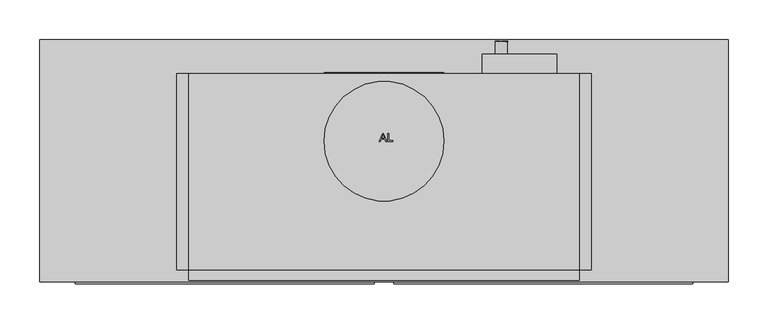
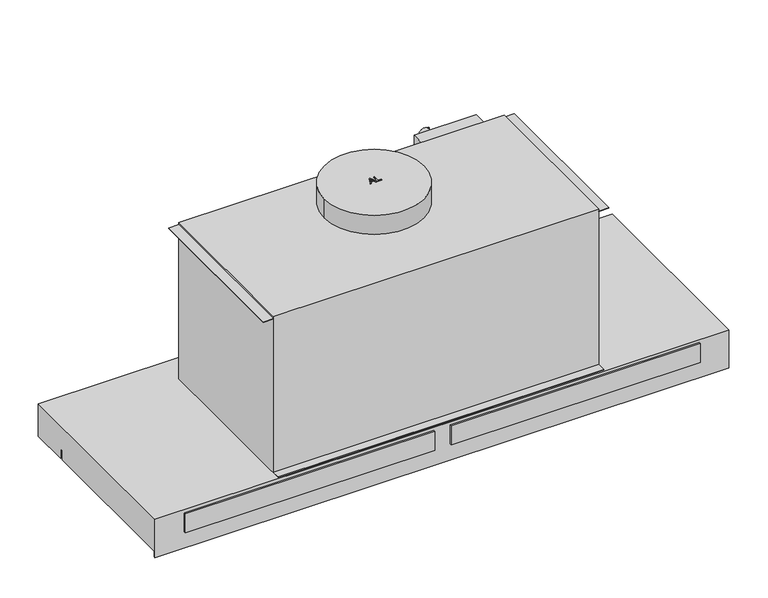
"""IFC4 building model written with IfcOpenShell, lengths in millimetres: proxy geometry, 11878590_USA_DAS8930_EDST : 28S8930S_USA_11878590_DAS8930_EDST."""

from ifc_helpers import new_model, si_unit, point, frame, frame_2d, origin, origin_with_axes, place, context, project, spatial, polyline, circle_curve, trimmed, segment, composite_curve, outline, extrude, faceted_brep, source, transform, mapped, element, save
from ifc_brep_helpers import plane_surface, revolved_surface, advanced_brep


def specialty_equipment_5ec509a7(model_context):
    return source(origin(), model_context, "Body", "SolidModel", [
        extrude(outline(polyline([(119.0, -21.25), (119.0, -33.75), (-119.0, -33.75), (-119.0, -21.25), (119.0, -21.25)])), frame((0.0, 0.0, -52.0), z_axis=(0.0, 0.0, 1.0), x_axis=(1.0, 0.0, 0.0)), (0.0, 0.0, 1.0), 1.0),
        extrude(outline(polyline([(259.2, -42.3), (259.2, -288.0), (244.2, -288.0), (244.2, -42.3), (259.2, -42.3)])), frame((0.0, 0.0, 244.0), z_axis=(0.0, 0.0, 1.0), x_axis=(1.0, 0.0, 0.0)), (0.0, 0.0, 1.0), 1.0),
        extrude(outline(polyline([(244.2, -288.0), (244.2, -301.010493), (-244.2, -301.010493), (-244.2, -288.0), (244.2, -288.0)])), origin_with_axes(), (0.0, 0.0, 1.0), 1.0),
        extrude(outline(polyline([(-5.7216201, -127.4839826), (-1.7117063, -117.4383516), (-0.642396, -117.4383516), (3.3675177, -127.4839826), (2.04069, -127.4839826), (0.8904456, -124.3447229), (-3.2470005, -124.3447229), (-4.3947924, -127.4839826), (-5.7216201, -127.4839826)]), holes=[polyline([(-2.7859218, -123.089019), (0.4318194, -123.089019), (-0.4731703, -120.6193046), (-1.1770512, -118.6940555), (-1.8024506, -120.4034805), (-2.7859218, -123.089019)])]), frame((0.0, 0.0, 278.0), z_axis=(0.0, 0.0, 1.0), x_axis=(1.0, 0.0, 0.0)), (0.0, 0.0, 1.0), 1.0),
        extrude(outline(polyline([(4.7090607, -127.4839826), (4.7090607, -117.4383516), (5.9647646, -117.4383516), (5.9647646, -126.2282787), (10.9875801, -126.2282787), (10.9875801, -127.4839826), (4.7090607, -127.4839826)])), frame((0.0, 0.0, 278.0), z_axis=(0.0, 0.0, 1.0), x_axis=(1.0, 0.0, 0.0)), (0.0, 0.0, 1.0), 1.0),
        extrude(outline(polyline([(-259.2, -42.3), (-244.2, -42.3), (-244.2, -288.0), (-259.2, -288.0), (-259.2, -42.3)])), frame((0.0, 0.0, 244.0), z_axis=(0.0, 0.0, 1.0), x_axis=(1.0, 0.0, 0.0)), (0.0, 0.0, 1.0), 1.0),
        extrude(outline(composite_curve([segment(trimmed(circle_curve(frame_2d((96.0, 0.0)), 75.0), [point((96.0, -75.0))], [point((96.0, 75.0))], False, "CARTESIAN"), True, "CONTINUOUS"), segment(trimmed(circle_curve(frame_2d((96.0, 0.0)), 75.0), [point((96.0, 75.0))], [point((96.0, -75.0))], False, "CARTESIAN"), True, "CONTINUOUS")], self_intersect=False)), frame((0.0, -42.3, 0.0), z_axis=(0.0, 1.0, 0.0), x_axis=(0.0, 0.0, 1.0)), (0.0, 0.0, 1.0), 1.2154264),
        extrude(outline(composite_curve([segment(trimmed(circle_curve(frame_2d((0.0, -127.0)), 75.0), [point((-75.0, -127.0))], [point((75.0, -127.0))], False, "CARTESIAN"), True, "CONTINUOUS"), segment(trimmed(circle_curve(frame_2d((0.0, -127.0)), 75.0), [point((75.0, -127.0))], [point((-75.0, -127.0))], False, "CARTESIAN"), True, "CONTINUOUS")], self_intersect=False)), frame((0.0, 0.0, 248.0), z_axis=(0.0, 0.0, 1.0), x_axis=(1.0, 0.0, 0.0)), (0.0, 0.0, 1.0), 30.0),
        extrude(outline(polyline([(244.2, -42.3), (244.2, -288.0), (-244.2, -288.0), (-244.2, -42.3), (244.2, -42.3)])), origin_with_axes(), (0.0, 0.0, 1.0), 248.0),
        advanced_brep(
        [(139.1711584, -34.3, 112.0), (143.2288416, -34.3, 112.0), (138.7132307, -42.3, 112.0), (143.6867693, -42.3, 112.0)],
        [
            (0, 1, circle_curve(frame((141.2, -34.3, 112.0), z_axis=(0.0, 1.0, 0.0), x_axis=(-1.0, 0.0, 0.0)), 2.0288416)),
            (1, 0, circle_curve(frame((141.2, -34.3, 112.0), z_axis=(0.0, 1.0, 0.0), x_axis=(1.0, 0.0, 0.0)), 2.0288416)),
            (2, 3, circle_curve(frame((141.2, -42.3, 112.0), z_axis=(0.0, -1.0, 0.0), x_axis=(1.0, 0.0, 0.0)), 2.4867693)),
            (3, 2, circle_curve(frame((141.2, -42.3, 112.0), z_axis=(0.0, -1.0, 0.0), x_axis=(-1.0, 0.0, 0.0)), 2.4867693)),
            (2, 0),
            (1, 3),
        ],
        [
            plane_surface(frame((141.2, -34.3, 112.0), z_axis=(0.0, 1.0, 0.0), x_axis=(0.0, 0.0, -1.0))),
            plane_surface(frame((141.2, -42.3, 112.0), z_axis=(0.0, -1.0, 0.0), x_axis=(0.0, 0.0, -1.0))),
            revolved_surface(polyline([(143.22884160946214, -34.3, 112.0), (143.6867693, -42.3, 112.0)]), (141.2, 1.1438773, 112.0), (0.0, -1.0, 0.0)),
            revolved_surface(polyline([(139.17115839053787, -34.3, 112.0), (138.7132307, -42.3, 112.0)]), (141.2, 1.1438773, 112.0), (0.0, -1.0, 0.0)),
        ],
        [
            (0, [[1, 2]]),
            (1, [[3, 4]]),
            (2, [[-3, 5, -2, 6]]),
            (3, [[-4, -6, -1, -5]]),
        ],
    ),
        extrude(outline(polyline([(-12.3800203, -305.5611099), (-386.3800203, -305.5611099), (-386.3800203, -303.0), (-12.3800203, -303.0), (-12.3800203, -305.5611099)])), frame((0.0, 0.0, -35.0), z_axis=(0.0, 0.0, 1.0), x_axis=(1.0, 0.0, 0.0)), (0.0, 0.0, 1.0), 30.0),
        extrude(outline(polyline([(386.3800203, -305.5611099), (12.3800203, -305.5611099), (12.3800203, -303.0), (386.3800203, -303.0), (386.3800203, -305.5611099)])), frame((0.0, 0.0, -35.0), z_axis=(0.0, 0.0, 1.0), x_axis=(1.0, 0.0, 0.0)), (0.0, 0.0, 1.0), 30.0),
        extrude(outline(polyline([(140.0671036, -279.4201694), (140.0671036, -299.4201694), (-140.0671036, -299.4201694), (-140.0671036, -279.4201694), (140.0671036, -279.4201694)])), frame((0.0, 0.0, -62.0), z_axis=(0.0, 0.0, 1.0), x_axis=(1.0, 0.0, 0.0)), (0.0, 0.0, 1.0), 10.0),
        extrude(outline(polyline([(225.0642317, 154.9241859), (235.1098627, 154.9241859), (235.1098627, 147.7038886), (233.8541589, 147.7038886), (233.8541589, 153.668482), (230.8718622, 153.668482), (230.8718622, 148.0178146), (229.6161583, 148.0178146), (229.6161583, 153.668482), (226.3199356, 153.668482), (226.3199356, 147.5469256), (225.0642317, 147.5469256), (225.0642317, 154.9241859)])), frame((0.0, -2.3, 0.0), z_axis=(0.0, 1.0, 0.0), x_axis=(0.0, 0.0, 1.0)), (0.0, 0.0, 1.0), 1.0),
        extrude(outline(polyline([(225.0642317, 145.6633698), (235.1098627, 145.6633698), (235.1098627, 144.407666), (226.3199356, 144.407666), (226.3199356, 139.3848504), (225.0642317, 139.3848504), (225.0642317, 145.6633698)])), frame((0.0, -2.3, 0.0), z_axis=(0.0, 1.0, 0.0), x_axis=(0.0, 0.0, 1.0)), (0.0, 0.0, 1.0), 1.0),
        extrude(outline(composite_curve([segment(trimmed(circle_curve(frame_2d((230.0, 147.0)), 7.5), [point((230.0, 139.5))], [point((230.0, 154.5))], False, "CARTESIAN"), True, "CONTINUOUS"), segment(trimmed(circle_curve(frame_2d((230.0, 147.0)), 7.5), [point((230.0, 154.5))], [point((230.0, 139.5))], False, "CARTESIAN"), True, "CONTINUOUS")], self_intersect=False)), frame((0.0, -18.1362154, 0.0), z_axis=(0.0, 1.0, 0.0), x_axis=(0.0, 0.0, 1.0)), (0.0, 0.0, 1.0), 15.8362154),
        extrude(outline(polyline([(216.0, -42.3), (123.0, -42.3), (123.0, -18.1362154), (216.0, -18.1362154), (216.0, -42.3)])), frame((0.0, 0.0, 204.0), z_axis=(0.0, 0.0, 1.0), x_axis=(1.0, 0.0, 0.0)), (0.0, 0.0, 1.0), 40.0),
        faceted_brep([(430.5, 0.0, 0.0), (-430.5, 0.0, 0.0), (-430.5, -303.0, 0.0), (430.5, -303.0, 0.0), (-430.5, 0.0, -52.0), (430.5, 0.0, -52.0), (430.5, -57.4839826, -52.0), (-430.5, -57.4839826, -52.0), (-125.0, -41.0, -52.0), (125.0, -41.0, -52.0), (125.0, -14.0, -52.0), (-125.0, -14.0, -52.0), (-430.5, -61.3884394, -52.0), (430.5, -61.3884394, -52.0), (430.5, -301.010493, -52.0), (-430.5, -301.010493, -52.0), (56.7717187, -231.6352835, -52.0), (56.7717187, -176.6352835, -52.0), (-56.7717187, -176.6352835, -52.0), (-56.7717187, -231.6352835, -52.0), (-430.5, -57.4839826, -37.0), (-430.5, -61.3884394, -37.0), (-430.5, -301.010493, -60.7521078), (-430.5, -303.0, -60.7521078), (430.5, -303.0, -60.7521078), (430.5, -301.010493, -60.7521078), (430.5, -61.3884394, -37.0), (430.5, -57.4839826, -37.0), (56.7717187, -191.6352835, -37.0), (56.7717187, -246.6352835, -37.0), (-56.7717187, -191.6352835, -37.0), (-56.7717187, -246.6352835, -37.0), (-125.0, -41.0, -48.9139644), (-125.0, -14.0, -48.9139644), (125.0, -14.0, -48.9139644), (125.0, -41.0, -48.9139644)], [[[0, 1, 2, 3]], [[4, 5, 6, 7], [8, 9, 10, 11]], [[12, 13, 14, 15], [16, 17, 18, 19]], [[1, 0, 5, 4]], [[2, 1, 4, 7, 20, 21, 12, 15, 22, 23]], [[3, 2, 23, 24]], [[0, 3, 24, 25, 14, 13, 26, 27, 6, 5]], [[28, 17, 16, 29]], [[30, 31, 19, 18]], [[28, 29, 31, 30]], [[29, 16, 19, 31]], [[17, 28, 30, 18]], [[25, 24, 23, 22]], [[14, 25, 22, 15]], [[26, 21, 20, 27]], [[21, 26, 13, 12]], [[27, 20, 7, 6]], [[32, 33, 34, 35]], [[32, 35, 9, 8]], [[35, 34, 10, 9]], [[34, 33, 11, 10]], [[33, 32, 8, 11]]]),
    ])


if __name__ == "__main__":
    model = new_model("IFC4")
    model_context = context("Model", 3, world=origin())
    ifc_project = project(units=[si_unit("LENGTHUNIT", "METRE", prefix="MILLI")], contexts=[model_context])
    site = spatial("IfcSite", under=ifc_project)
    building = spatial("IfcBuilding", under=site)
    placement = place(None, origin())
    specialty_equipment_shape = specialty_equipment_5ec509a7(model_context)
    element("IfcBuildingElementProxy", 1, Name="11878590_USA_DAS8930_EDST : 28S8930S_USA_11878590_DAS8930_EDST", ObjectType="11878590_USA_DAS8930_EDST : 28S8930S_USA_11878590_DAS8930_EDST", at=placement, inside=building, context=model_context, shape_type="MappedRepresentation", body=[
        mapped(specialty_equipment_shape, transform((0.0, 0.0, 0.0), x_axis=(1.0, 0.0, 0.0), y_axis=(0.0, 1.0, 0.0), z_axis=(0.0, 0.0, 1.0))),
    ])
    save(model, "model.ifc")
